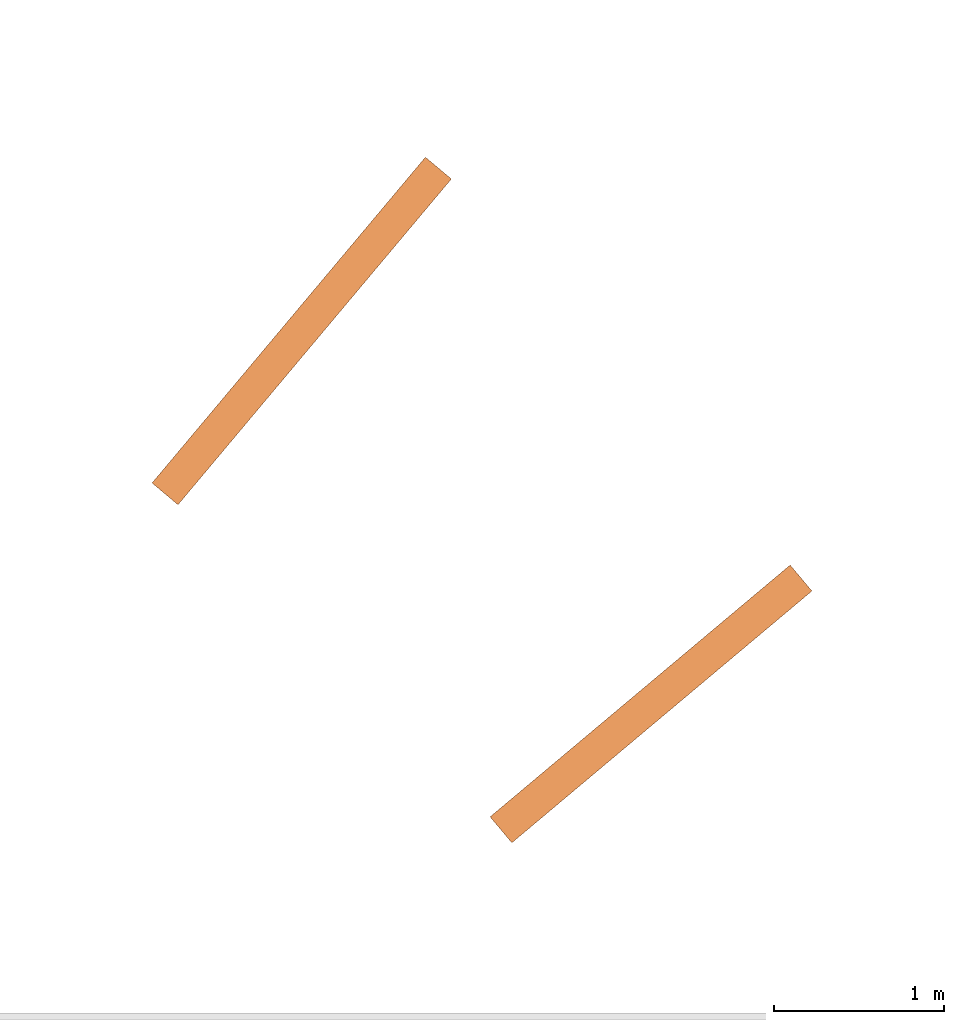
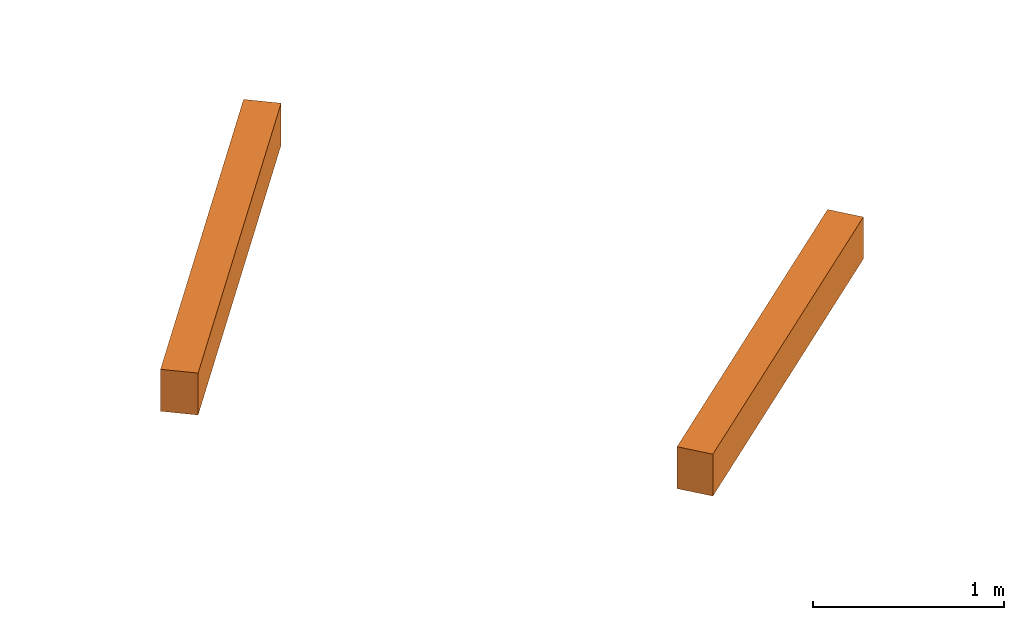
# One storey, part 13 of 16: 1 proxy.
"""IFC2X3 building model written with IfcOpenShell, lengths in millimetres."""

from ifc_helpers import new_model, entity, si_unit, converted_unit, derived_unit, direction, frame, frame_2d, origin, place, context, subcontext, project, spatial, rectangle, extrude, source, transform, mapped, material, type_object, type_shapes, element, save


model = new_model("IFC2X3")

# Units and contexts
model_context = context("Model", 3, precision=0.01, world=origin(), true_north=direction((4.05803320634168e-15, -1.0)))
body_context = subcontext(model_context, "Body", "Model", "MODEL_VIEW")
ifc_project = project(units=[si_unit("LENGTHUNIT", "METRE", prefix="MILLI"), si_unit("AREAUNIT", "SQUARE_METRE"), si_unit("VOLUMEUNIT", "CUBIC_METRE"), converted_unit("PLANEANGLEUNIT", "DEGREE", entity("IfcRatioMeasure", 0.0174532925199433), si_unit("PLANEANGLEUNIT", "RADIAN"), dimensions=[0, 0, 0, 0, 0, 0, 0]), si_unit("MASSUNIT", "GRAM", prefix="KILO"), derived_unit("MASSDENSITYUNIT", [(si_unit("MASSUNIT", "GRAM", prefix="KILO"), 1), (si_unit("LENGTHUNIT", "METRE"), -3)]), si_unit("TIMEUNIT", "SECOND"), si_unit("FREQUENCYUNIT", "HERTZ"), si_unit("THERMODYNAMICTEMPERATUREUNIT", "DEGREE_CELSIUS"), derived_unit("THERMALTRANSMITTANCEUNIT", [(si_unit("MASSUNIT", "GRAM", prefix="KILO"), 1), (si_unit("THERMODYNAMICTEMPERATUREUNIT", "KELVIN"), -1), (si_unit("TIMEUNIT", "SECOND"), -3)]), derived_unit("VOLUMETRICFLOWRATEUNIT", [(si_unit("LENGTHUNIT", "METRE"), 3), (si_unit("TIMEUNIT", "SECOND"), -1)]), si_unit("ELECTRICCURRENTUNIT", "AMPERE"), si_unit("ELECTRICVOLTAGEUNIT", "VOLT"), si_unit("POWERUNIT", "WATT"), si_unit("FORCEUNIT", "NEWTON", prefix="KILO"), si_unit("ILLUMINANCEUNIT", "LUX"), si_unit("LUMINOUSFLUXUNIT", "LUMEN"), si_unit("LUMINOUSINTENSITYUNIT", "CANDELA"), derived_unit("USERDEFINED", [(si_unit("MASSUNIT", "GRAM", prefix="KILO"), -1), (si_unit("LENGTHUNIT", "METRE"), -2), (si_unit("TIMEUNIT", "SECOND"), 3), (si_unit("LUMINOUSFLUXUNIT", "LUMEN"), 1)]), derived_unit("LINEARVELOCITYUNIT", [(si_unit("LENGTHUNIT", "METRE"), 1), (si_unit("TIMEUNIT", "SECOND"), -1)]), si_unit("PRESSUREUNIT", "PASCAL"), derived_unit("USERDEFINED", [(si_unit("LENGTHUNIT", "METRE"), -2), (si_unit("MASSUNIT", "GRAM", prefix="KILO"), 1), (si_unit("TIMEUNIT", "SECOND"), -2)])], contexts=[model_context])

# Site, building, storey
site_placement = place(None, frame((927466.849349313, 583801.882853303, 0.0), z_axis=(0.0, 0.0, 1.0), x_axis=(-1.0, 0.0, 0.0)))
site = spatial("IfcSite", under=ifc_project, at=site_placement, Name="Surface", CompositionType="ELEMENT")
building_placement = place(site_placement, origin())
building = spatial("IfcBuilding", under=site, at=building_placement, CompositionType="ELEMENT")
storey_placement = place(building_placement, frame((0.0, 0.0, 42810.0)))
storey = spatial("IfcBuildingStorey", under=building, at=storey_placement, Name="Hardstand", CompositionType="ELEMENT", Elevation=42810.0)

# Proxy
ifc_material = material(Name="bollards")
building_element_proxy_type = type_object("IfcBuildingElementProxyType", Name="Generic Models 44", PredefinedType="NOTDEFINED", material=ifc_material)
shared_shape = source(origin(), body_context, "Body", "SweptSolid", [
    extrude(rectangle(XDim=2506.31363813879, YDim=199.999999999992, at=frame_2d((-2.8421709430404e-12, 3.31112914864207e-12), x_axis=(1.0, 0.0))), frame((-49413.3282469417, -34712.8468466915, 42770.0), z_axis=(0.0, 0.0, 1.0), x_axis=(0.642787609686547, 0.766044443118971, 0.0)), (0.0, 0.0, 1.0), 268.50535536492),
    extrude(rectangle(XDim=2308.44005245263, YDim=199.999999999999, at=frame_2d((-1.36424205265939e-12, -1.69109171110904e-12), x_axis=(1.0, 0.0))), frame((-51471.3592442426, -32515.4305244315, 42770.0), z_axis=(0.0, 0.0, 1.0), x_axis=(0.766044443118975, 0.642787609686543, 0.0)), (0.0, 0.0, 1.0), 268.50535536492),
])
type_shapes(building_element_proxy_type, [shared_shape])
proxy_placement = place(storey_placement, frame((0.0, 0.0, -42810.0)))
element("IfcBuildingElementProxy", 1, at=proxy_placement, inside=storey, type_object=building_element_proxy_type, material=ifc_material, Name="Generic Models 60:Generic Models 44", ObjectType="Generic Models 44", context=body_context, shape_type="MappedRepresentation", body=[
    mapped(shared_shape, transform((0.0, 0.0, 0.0), scale=1.0)),
])

save(model, "model.ifc")
